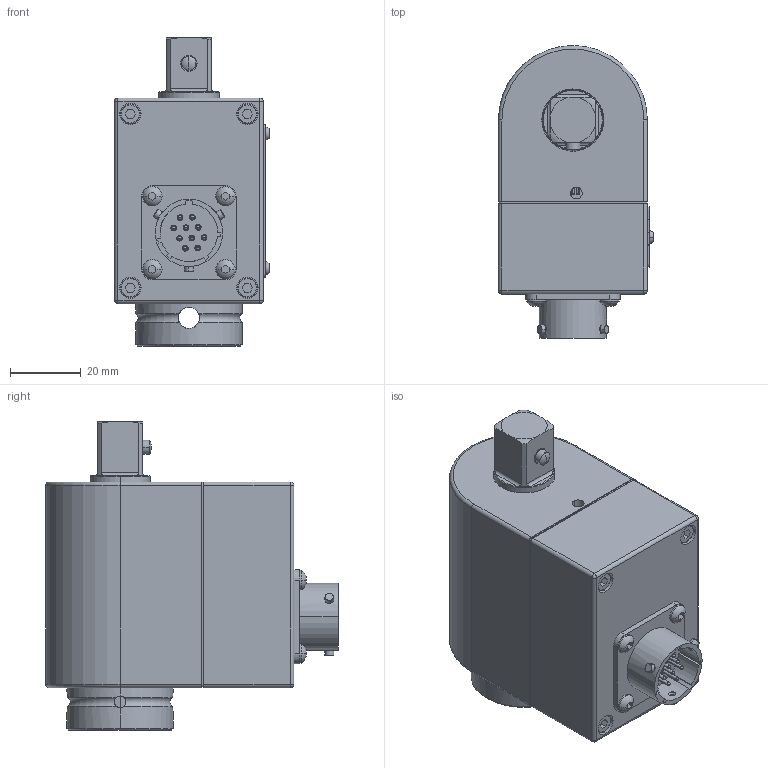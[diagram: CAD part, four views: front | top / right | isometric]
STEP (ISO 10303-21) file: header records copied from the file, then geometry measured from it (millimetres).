
FILE_DESCRIPTION((''),'2;1');
FILE_NAME('2150_ASM','2014-04-04T',('itdmip'),(''),'PRO/ENGINEER BY PARAMETRIC TECHNOLOGY CORPORATION, 2013230','PRO/ENGINEER BY PARAMETRIC TECHNOLOGY CORPORATION, 2013230','');
FILE_SCHEMA(('CONFIG_CONTROL_DESIGN','GEOMETRIC_VALIDATION_PROPERTIES_MIM'));
Length unit declared in the file: millimetre
Products named in the file (2): _2150; 2150_ASM
Assembly tree (1 placements, depth 2):
  2150_ASM
    _2150
Bounding box: 43.75 x 82.52 x 87 mm (x, y, z)
Surface area: 28633.5 mm2 (no closed solid volume)
Topology: 0 solids, 45 shells, 477 faces, 1667 edges, 1278 vertices
Faces by surface type: plane 215, cylinder 161, sphere 42, torus 33, cone 26
Entity records: 27590 total; most frequent: CARTESIAN_POINT 7892, ORIENTED_EDGE 2884, DIRECTION 2709, PRESENTATION_STYLE_ASSIGNMENT 1685, STYLED_ITEM 1646, EDGE_CURVE 1637, CURVE_STYLE 1603, VERTEX_POINT 1278
